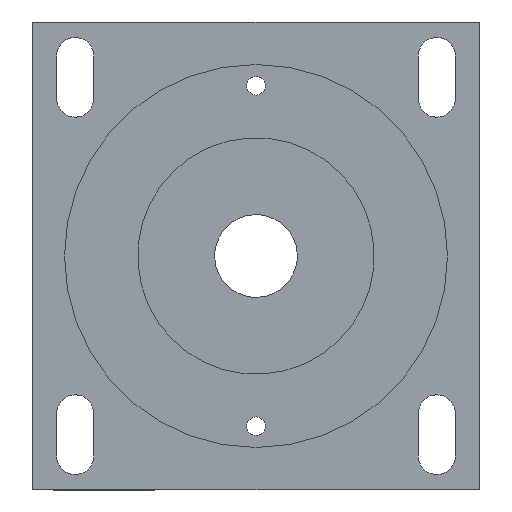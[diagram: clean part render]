
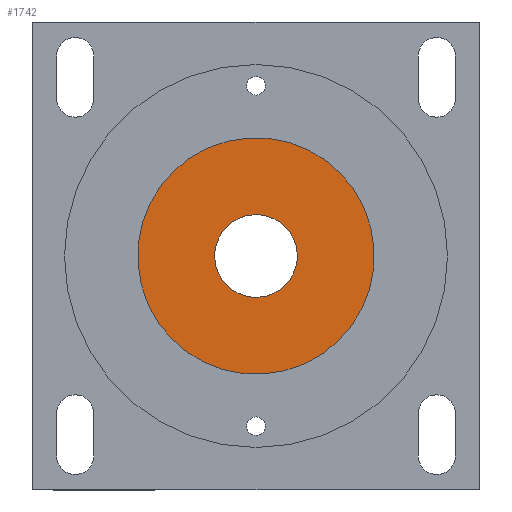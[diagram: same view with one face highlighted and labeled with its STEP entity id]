
A CAD part, front view. The second image highlights one B-rep face of the part: STEP entity #1742.
In plain terms, the highlighted planar face has unit normal (0, -1, 0).
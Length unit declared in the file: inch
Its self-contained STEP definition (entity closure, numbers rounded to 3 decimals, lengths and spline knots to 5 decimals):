
#29 = VERTEX_POINT ( 'NONE', #1494 ) ;
#51 = EDGE_CURVE ( 'NONE', #3950, #4956, #3251, .T. ) ;
#236 = VERTEX_POINT ( 'NONE', #537 ) ;
#284 = EDGE_LOOP ( 'NONE', ( #1622, #843 ) ) ;
#537 = CARTESIAN_POINT ( 'NONE',  ( -1.27327, -0.68926, 0.28479 ) ) ;
#760 = DIRECTION ( 'NONE',  ( 0., 1., 0. ) ) ;
#792 = DIRECTION ( 'NONE',  ( 0., -1., 0. ) ) ;
#843 = ORIENTED_EDGE ( 'NONE', *, *, #2249, .F. ) ;
#1115 = EDGE_LOOP ( 'NONE', ( #1974, #1208 ) ) ;
#1128 = AXIS2_PLACEMENT_3D ( 'NONE', #3100, #792, #3481 ) ;
#1156 = CARTESIAN_POINT ( 'NONE',  ( 0.11309, -0.68926, 0.38537 ) ) ;
#1170 = DIRECTION ( 'NONE',  ( 0., 1., 0. ) ) ;
#1186 = CARTESIAN_POINT ( 'NONE',  ( 0.59682, -0.68926, 0.42047 ) ) ;
#1208 = ORIENTED_EDGE ( 'NONE', *, *, #2638, .F. ) ;
#1225 = FACE_BOUND ( 'NONE', #284, .T. ) ;
#1336 = CARTESIAN_POINT ( 'NONE',  ( 0.11309, -0.68926, 0.38537 ) ) ;
#1494 = CARTESIAN_POINT ( 'NONE',  ( 1.49944, -0.68926, 0.48595 ) ) ;
#1513 = CARTESIAN_POINT ( 'NONE',  ( 0.11309, -0.68926, 0.38537 ) ) ;
#1622 = ORIENTED_EDGE ( 'NONE', *, *, #51, .F. ) ;
#1714 = DIRECTION ( 'NONE',  ( 0.997, 0., 0.072 ) ) ;
#1742 = ADVANCED_FACE ( 'NONE', ( #1225, #4151 ), #3448, .F. ) ;
#1974 = ORIENTED_EDGE ( 'NONE', *, *, #4141, .F. ) ;
#2249 = EDGE_CURVE ( 'NONE', #4956, #3950, #4176, .T. ) ;
#2332 = AXIS2_PLACEMENT_3D ( 'NONE', #1513, #2645, #3408 ) ;
#2339 = CIRCLE ( 'NONE', #4119, 1.39 ) ;
#2589 = AXIS2_PLACEMENT_3D ( 'NONE', #1156, #1170, #3838 ) ;
#2638 = EDGE_CURVE ( 'NONE', #236, #29, #4519, .T. ) ;
#2645 = DIRECTION ( 'NONE',  ( 0., -1., 0. ) ) ;
#3065 = CARTESIAN_POINT ( 'NONE',  ( 0.11309, -0.68926, 0.38537 ) ) ;
#3100 = CARTESIAN_POINT ( 'NONE',  ( 0.11309, -0.68926, 0.38537 ) ) ;
#3251 = CIRCLE ( 'NONE', #2332, 0.485 ) ;
#3404 = AXIS2_PLACEMENT_3D ( 'NONE', #3065, #760, #3449 ) ;
#3408 = DIRECTION ( 'NONE',  ( -0.997, 0., -0.072 ) ) ;
#3448 = PLANE ( 'NONE',  #2589 ) ;
#3449 = DIRECTION ( 'NONE',  ( 0.997, 0., 0.072 ) ) ;
#3481 = DIRECTION ( 'NONE',  ( -0.997, 0., -0.072 ) ) ;
#3838 = DIRECTION ( 'NONE',  ( 0.997, 0., 0.072 ) ) ;
#3942 = CARTESIAN_POINT ( 'NONE',  ( -0.37064, -0.68926, 0.35028 ) ) ;
#3950 = VERTEX_POINT ( 'NONE', #3942 ) ;
#3997 = DIRECTION ( 'NONE',  ( 0., 1., 0. ) ) ;
#4119 = AXIS2_PLACEMENT_3D ( 'NONE', #1336, #3997, #1714 ) ;
#4141 = EDGE_CURVE ( 'NONE', #29, #236, #2339, .T. ) ;
#4151 = FACE_OUTER_BOUND ( 'NONE', #1115, .T. ) ;
#4176 = CIRCLE ( 'NONE', #1128, 0.485 ) ;
#4519 = CIRCLE ( 'NONE', #3404, 1.39 ) ;
#4956 = VERTEX_POINT ( 'NONE', #1186 ) ;
